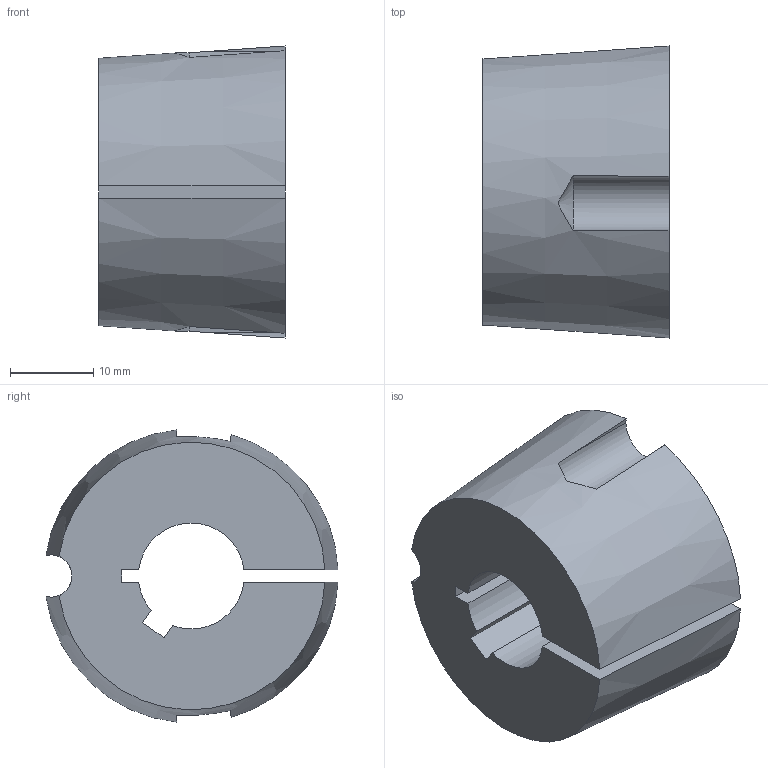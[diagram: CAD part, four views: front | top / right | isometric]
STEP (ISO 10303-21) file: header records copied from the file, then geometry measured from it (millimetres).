
FILE_DESCRIPTION( ( '' ), '1' );
FILE_NAME( 'C:/Users/StangenbergN/Desktop/06.02.2019_steps/6225011270.stp', '2019-02-06T19:53:44', ( '' ), ( '' ), ' ', ' ', ' ' );
FILE_SCHEMA( ( 'CONFIG_CONTROL_DESIGN' ) );
Length unit declared in the file: millimetre
Products named in the file (1): 1
Bounding box: 22.3 x 35.01 x 35.02 mm (x, y, z)
Volume: 15822.3 mm3; surface area: 5404.6 mm2
Topology: 1 solids, 1 shells, 26 faces, 72 edges, 48 vertices
Faces by surface type: cylinder 12, plane 10, cone 4
Entity records: 968 total; most frequent: CARTESIAN_POINT 259, ORIENTED_EDGE 144, DIRECTION 138, EDGE_CURVE 72, AXIS2_PLACEMENT_3D 53, VERTEX_POINT 48, LINE 32, VECTOR 32
